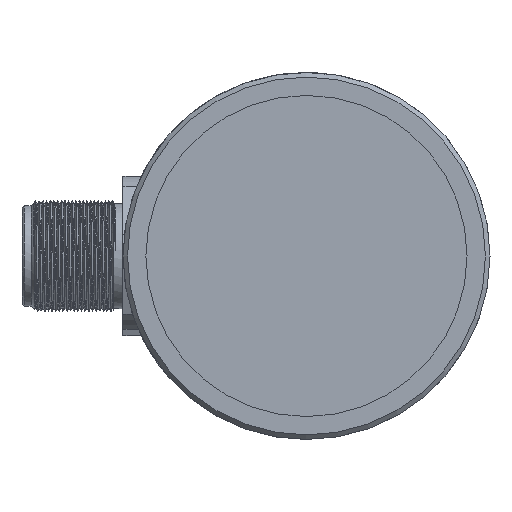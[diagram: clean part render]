
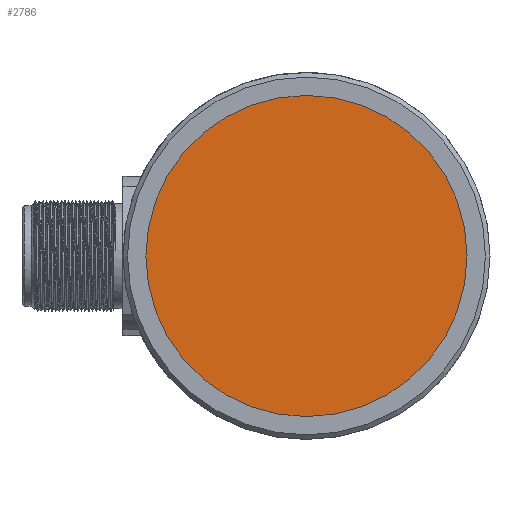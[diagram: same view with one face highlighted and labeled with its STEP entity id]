
A CAD part, left-side view. The second image highlights one B-rep face of the part: STEP entity #2786.
In plain terms, the highlighted planar face has unit normal (-1, 0, 0).
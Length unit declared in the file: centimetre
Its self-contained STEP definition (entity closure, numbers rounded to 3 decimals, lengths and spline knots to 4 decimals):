
#707=PLANE('',#2996);
#885=VERTEX_POINT('',#3665);
#1072=CIRCLE('',#2995,1.75);
#1261=EDGE_CURVE('',#885,#885,#1072,.T.);
#1717=ORIENTED_EDGE('',*,*,#1261,.T.);
#2330=EDGE_LOOP('',(#1717));
#2566=FACE_BOUND('',#2330,.T.);
#2786=ADVANCED_FACE('',(#2566),#707,.F.);
#2995=AXIS2_PLACEMENT_3D('',#3664,#14820,#14821);
#2996=AXIS2_PLACEMENT_3D('',#3666,#14822,$);
#3664=CARTESIAN_POINT('',(-5.5,0.,0.));
#3665=CARTESIAN_POINT('',(-5.5,0.,-1.75));
#3666=CARTESIAN_POINT('',(-5.5,0.,0.));
#14820=DIRECTION('',(-1.,0.,0.));
#14821=DIRECTION('',(0.,0.,-1.75));
#14822=DIRECTION('',(1.,0.,0.));
